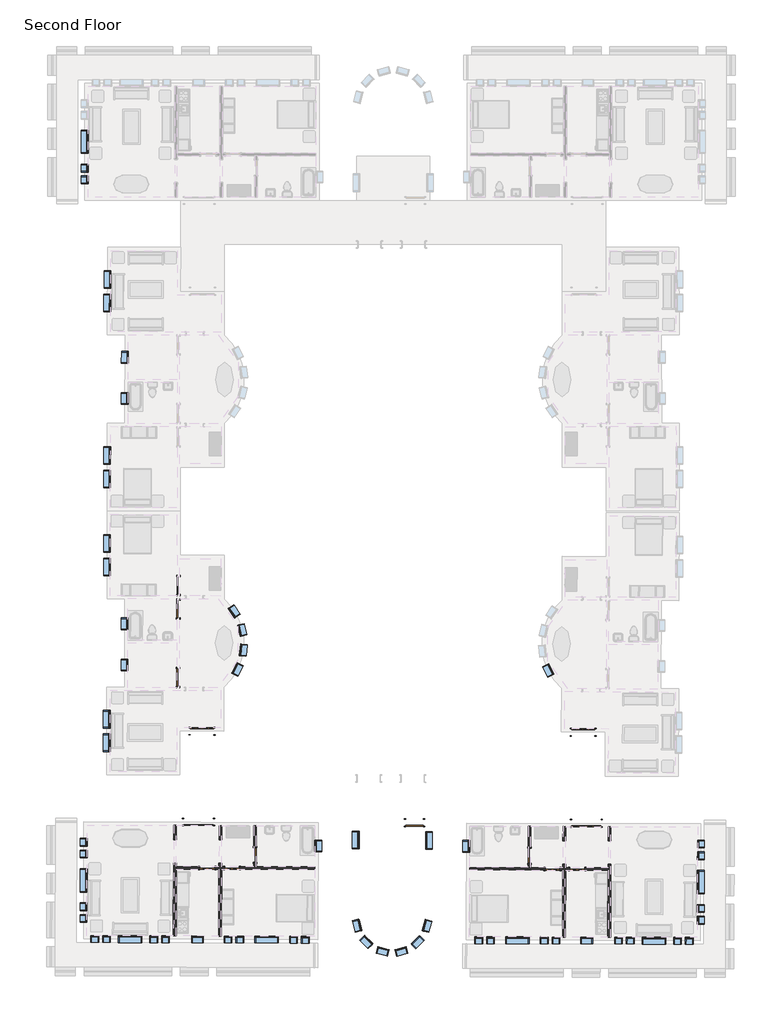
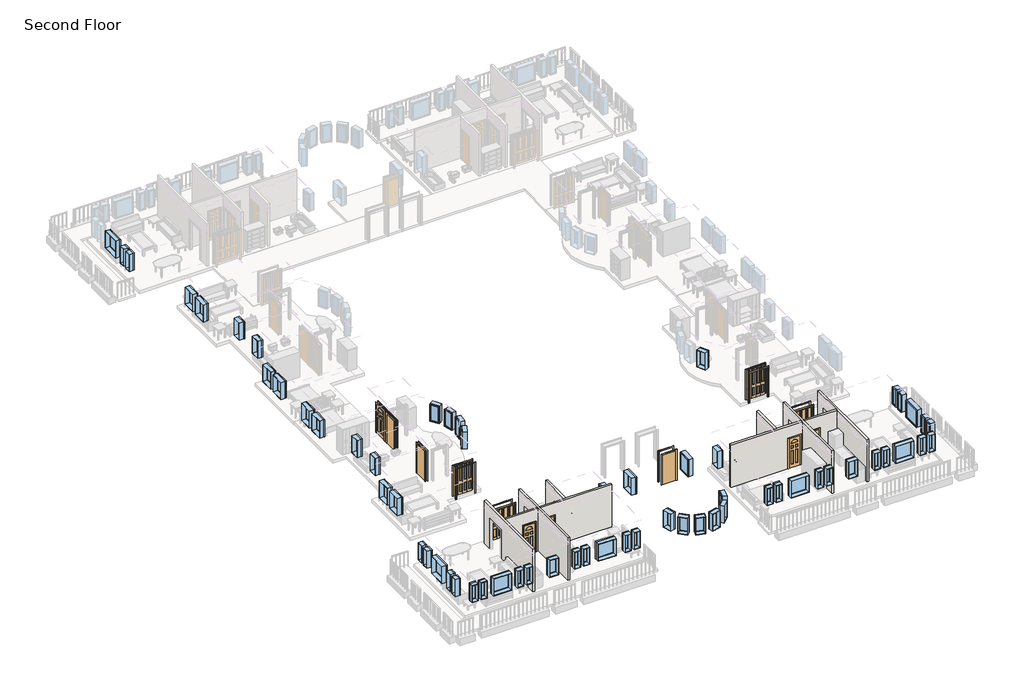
# One storey, part 1 of 8: 62 windows, 14 doors, 8 walls.
"""IFC4 building model written with IfcOpenShell, lengths in millimetres."""

from ifc_helpers import new_model, si_unit, frame, origin, place, context, project, spatial, polyline, outline, extrude, faceted_brep, transform, mapped, element, save
from components import m_bifold_4_panel_1220_x_2134mm_46e1cad3, m_bifold_4_panel_1220_x_2134mm_cde6dea2, m_bifold_4_panel_1525_x_2134mm_1ddae71f, m_bifold_4_panel_1525_x_2134mm_ac598c8b, m_single_decorative_2_0762_x_2134mm_0d0af7cb, m_single_decorative_2_0762_x_2134mm_2fe67c8e, m_single_decorative_2_0915_x_2134mm_0b11df3f, m_single_flush_0762_x_2134mm_0d89e411, m_single_flush_0762_x_2134mm_a28375c7, m_single_flush_0915_x_2134mm_ab9b6334, m_single_flush_0915_x_2134mm_08e0827a, m_single_flush_0915_x_2134mm_70678a7c, m_fixed_0406_x_1220mm_57fee329, m_fixed_0406_x_1220mm_85c28f40, m_fixed_0610_x_1220mm_2c28ef1d, m_fixed_0610_x_1220mm_1ea27827, m_fixed_0915_x_1220mm_bde29121, m_fixed_0915_x_1220mm_2a2509e7, m_fixed_1220_x_1220mm_e08ff7af, m_fixed_1220_x_1220mm_8f5f8ad3

model = new_model("IFC4")

# Units and contexts
model_context = context("Model", 3, world=origin())
ifc_project = project(units=[si_unit("LENGTHUNIT", "METRE", prefix="MILLI")], contexts=[model_context])

# Site, building, storey
site = spatial("IfcSite", under=ifc_project)
building = spatial("IfcBuilding", under=site)
storey = spatial("IfcBuildingStorey", under=building, Name="Second Floor", Elevation=3048.0)

# Doors
placement = place(None, origin())
m_bifold_4_panel_1220_x_2134mm_shape = m_bifold_4_panel_1220_x_2134mm_46e1cad3(model_context)
element("IfcDoor", 1, ObjectType="M_Bifold-4 Panel : 1220 x 2134mm", at=placement, inside=storey, context=model_context, shape_type="MappedRepresentation", body=[
    mapped(m_bifold_4_panel_1220_x_2134mm_shape, transform((-9084.0085376, -31158.0124606, 3048.0), x_axis=(0.9999905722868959, -0.0043422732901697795, 0.0), y_axis=(0.0043422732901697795, 0.9999905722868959, 0.0), z_axis=(0.0, 0.0, 1.0))),
])
m_bifold_4_panel_1220_x_2134mm_2_shape = m_bifold_4_panel_1220_x_2134mm_cde6dea2(model_context)
element("IfcDoor", 2, ObjectType="M_Bifold-4 Panel : 1220 x 2134mm", at=placement, inside=storey, context=model_context, shape_type="MappedRepresentation", body=[
    mapped(m_bifold_4_panel_1220_x_2134mm_2_shape, transform((-28896.4341492, -31100.6581424, 3048.0), x_axis=(-0.9999989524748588, 0.0014474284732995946, 0.0), y_axis=(-0.0014474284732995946, -0.9999989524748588, 0.0), z_axis=(0.0, 0.0, 1.0))),
])
m_bifold_4_panel_1525_x_2134mm_shape = m_bifold_4_panel_1525_x_2134mm_1ddae71f(model_context)
element("IfcDoor", 3, ObjectType="M_Bifold-4 Panel : 1525 x 2134mm", at=placement, inside=storey, context=model_context, shape_type="MappedRepresentation", body=[
    mapped(m_bifold_4_panel_1525_x_2134mm_shape, transform((-29084.8596063, -35825.933405, 3048.0), x_axis=(-0.9999958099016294, 0.0028948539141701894, 0.0), y_axis=(-0.0028948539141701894, -0.9999958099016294, 0.0), z_axis=(0.0, 0.0, 1.0))),
])
m_bifold_4_panel_1525_x_2134mm_2_shape = m_bifold_4_panel_1525_x_2134mm_ac598c8b(model_context)
element("IfcDoor", 4, ObjectType="M_Bifold-4 Panel : 1525 x 2134mm", at=placement, inside=storey, context=model_context, shape_type="MappedRepresentation", body=[
    mapped(m_bifold_4_panel_1525_x_2134mm_2_shape, transform((-8922.9440871, -35884.2994497, 3048.0), x_axis=(0.9999958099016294, -0.0028948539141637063, 0.0), y_axis=(0.0028948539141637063, 0.9999958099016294, 0.0), z_axis=(0.0, 0.0, 1.0))),
])
m_single_decorative_2_0762_x_2134mm_shape = m_single_decorative_2_0762_x_2134mm_0d0af7cb(model_context)
element("IfcDoor", 5, ObjectType="M_Single-Decorative 2 : 0762 x 2134mm", at=placement, inside=storey, context=model_context, shape_type="MappedRepresentation", body=[
    mapped(m_single_decorative_2_0762_x_2134mm_shape, transform((-10682.8170859, -38255.9648119, 3048.0), x_axis=(0.9999958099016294, -0.002894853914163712, 0.0), y_axis=(0.002894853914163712, 0.9999958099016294, 0.0), z_axis=(0.0, 0.0, 1.0))),
])
element("IfcDoor", 6, ObjectType="M_Single-Decorative 2 : 0762 x 2134mm", at=placement, inside=storey, context=model_context, shape_type="MappedRepresentation", body=[
    mapped(m_single_decorative_2_0762_x_2134mm_shape, transform((-28625.491904, -38204.0231719, 3048.0), x_axis=(0.9999958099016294, -0.0028948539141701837, 0.0), y_axis=(0.0028948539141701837, 0.9999958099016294, 0.0), z_axis=(0.0, 0.0, 1.0))),
])
m_single_decorative_2_0762_x_2134mm_2_shape = m_single_decorative_2_0762_x_2134mm_2fe67c8e(model_context)
element("IfcDoor", 7, ObjectType="M_Single-Decorative 2 : 0762 x 2134mm", at=placement, inside=storey, context=model_context, shape_type="MappedRepresentation", body=[
    mapped(m_single_decorative_2_0762_x_2134mm_2_shape, transform((-9396.0724775, -38259.6897652, 3048.0), x_axis=(-0.9999958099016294, 0.002894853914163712, 0.0), y_axis=(-0.002894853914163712, -0.9999958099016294, 0.0), z_axis=(0.0, 0.0, 1.0))),
])
element("IfcDoor", 8, ObjectType="M_Single-Decorative 2 : 0762 x 2134mm", at=placement, inside=storey, context=model_context, shape_type="MappedRepresentation", body=[
    mapped(m_single_decorative_2_0762_x_2134mm_2_shape, transform((-27338.7472956, -38207.7481251, 3048.0), x_axis=(-0.9999958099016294, 0.0028948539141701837, 0.0), y_axis=(-0.0028948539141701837, -0.9999958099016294, 0.0), z_axis=(0.0, 0.0, 1.0))),
])
m_single_decorative_2_0915_x_2134mm_shape = m_single_decorative_2_0915_x_2134mm_0b11df3f(model_context)
element("IfcDoor", 9, ObjectType="M_Single-Decorative 2 : 0915 x 2134mm", at=placement, inside=storey, context=model_context, shape_type="MappedRepresentation", body=[
    mapped(m_single_decorative_2_0915_x_2134mm_shape, transform((-30128.4841363, -23534.6169126, 3048.0), x_axis=(-0.0014474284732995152, -0.9999989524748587, 0.0), y_axis=(0.9999989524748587, -0.0014474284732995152, 0.0), z_axis=(0.0, 0.0, 1.0))),
])
m_single_flush_0762_x_2134mm_shape = m_single_flush_0762_x_2134mm_0d89e411(model_context)
element("IfcDoor", 10, ObjectType="M_Single-Flush : 0762 x 2134mm", at=placement, inside=storey, context=model_context, shape_type="MappedRepresentation", body=[
    mapped(m_single_flush_0762_x_2134mm_shape, transform((-26146.2902967, -37533.4472886, 3048.0), x_axis=(-0.0028948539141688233, -0.9999958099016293, 0.0), y_axis=(0.9999958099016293, -0.0028948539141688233, 0.0), z_axis=(0.0, 0.0, 1.0))),
])
m_single_flush_0762_x_2134mm_2_shape = m_single_flush_0762_x_2134mm_a28375c7(model_context)
element("IfcDoor", 11, ObjectType="M_Single-Flush : 0762 x 2134mm", at=placement, inside=storey, context=model_context, shape_type="MappedRepresentation", body=[
    mapped(m_single_flush_0762_x_2134mm_2_shape, transform((-11871.3501103, -37574.7713282, 3048.0), x_axis=(-0.002894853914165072, -0.9999958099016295, 0.0), y_axis=(0.9999958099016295, -0.002894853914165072, 0.0), z_axis=(0.0, 0.0, 1.0))),
])
m_single_flush_0915_x_2134mm_shape = m_single_flush_0915_x_2134mm_ab9b6334(model_context)
element("IfcDoor", 12, ObjectType="M_Single-Flush : 0915 x 2134mm", at=placement, inside=storey, context=model_context, shape_type="MappedRepresentation", body=[
    mapped(m_single_flush_0915_x_2134mm_shape, transform((-30135.3858371, -28302.8619177, 3048.0), x_axis=(-0.0014474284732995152, -0.9999989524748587, 0.0), y_axis=(0.9999989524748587, -0.0014474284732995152, 0.0), z_axis=(0.0, 0.0, 1.0))),
])
m_single_flush_0915_x_2134mm_2_shape = m_single_flush_0915_x_2134mm_08e0827a(model_context)
element("IfcDoor", 13, ObjectType="M_Single-Flush : 0915 x 2134mm", at=placement, inside=storey, context=model_context, shape_type="MappedRepresentation", body=[
    mapped(m_single_flush_0915_x_2134mm_2_shape, transform((-30130.249999, -24754.6156346, 3048.0), x_axis=(0.0014474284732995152, 0.9999989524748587, 0.0), y_axis=(-0.9999989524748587, 0.0014474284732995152, 0.0), z_axis=(0.0, 0.0, 1.0))),
])
m_single_flush_0915_x_2134mm_3_shape = m_single_flush_0915_x_2134mm_70678a7c(model_context)
element("IfcDoor", 14, ObjectType="M_Single-Flush : 0915 x 2134mm", at=placement, inside=storey, context=model_context, shape_type="MappedRepresentation", body=[
    mapped(m_single_flush_0915_x_2134mm_3_shape, transform((-17860.906636, -35858.4252454, 3048.0), x_axis=(0.9999958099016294, -0.0028948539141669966, 0.0), y_axis=(0.0028948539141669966, 0.9999958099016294, 0.0), z_axis=(0.0, 0.0, 1.0))),
])

# Walls
element("IfcWall", 15, ObjectType="Interior - 135mm Partition (2-hr)", at=placement, inside=storey, context=model_context, shape_type="Brep", body=[
    faceted_brep([(-7661.5898742, -41808.9757108, 3048.0), (-7650.6270624, -38021.9915787, 3048.0), (-7650.6270624, -38021.9915787, 5182.0), (-7647.0953406, -36801.9966906, 5182.0), (-7647.0953406, -36801.9966906, 3048.0), (-7644.9560436, -36062.9997871, 3048.0), (-7644.9560436, -36062.9997871, 6096.0), (-7661.5898742, -41808.9757108, 6096.0), (-7786.1264946, -38021.599326, 5182.0), (-7786.1264946, -38021.599326, 3048.0), (-7786.6330941, -38196.5985928, 3048.0), (-7787.0253468, -38332.098025, 3048.0), (-7797.0893064, -41808.5834581, 3048.0), (-7797.0893064, -41808.5834581, 6096.0), (-7787.0253468, -38332.098025, 6096.0), (-7786.6330941, -38196.5985928, 6096.0), (-7780.4554758, -36062.6075344, 6096.0), (-7780.4554758, -36062.6075344, 3048.0), (-7782.5947729, -36801.6044379, 3048.0), (-7782.5947729, -36801.6044379, 5182.0)], [[[0, 1, 2, 3, 4, 5, 6, 7]], [[8, 9, 10, 11, 12, 13, 14, 15, 16, 17, 18, 19]], [[18, 17, 5, 4]], [[12, 11, 10, 9, 1, 0]], [[7, 6, 16, 15, 14, 13]], [[4, 3, 19, 18]], [[2, 1, 9, 8]], [[3, 2, 8, 19]], [[6, 5, 17, 16]], [[0, 7, 13, 12]]]),
])
element("IfcWall", 16, ObjectType="Interior - 135mm Partition (2-hr)", at=placement, inside=storey, context=model_context, shape_type="Brep", body=[
    faceted_brep([(-10000.8354782, -36795.1829282, 5182.0), (-10000.8354782, -36795.1829282, 3048.0), (-9998.6961811, -36056.1860247, 3048.0), (-9998.6961811, -36056.1860247, 6096.0), (-10004.8737994, -38190.1770831, 6096.0), (-10005.2660521, -38325.6765153, 6096.0), (-10015.3300117, -41802.1619484, 6096.0), (-10015.3300117, -41802.1619484, 3048.0), (-10005.2660521, -38325.6765153, 3048.0), (-10004.8737994, -38190.1770831, 3048.0), (-10004.3671999, -38015.1778163, 3048.0), (-10004.3671999, -38015.1778163, 5182.0), (-10134.1956134, -36055.793772, 3048.0), (-10136.3349104, -36794.7906755, 3048.0), (-10136.3349104, -36794.7906755, 5182.0), (-10139.8666322, -38014.7855636, 5182.0), (-10139.8666322, -38014.7855636, 3048.0), (-10140.3732316, -38189.7848304, 3048.0), (-10140.7654843, -38325.2842626, 3048.0), (-10150.829444, -41801.7696957, 3048.0), (-10150.829444, -41801.7696957, 6096.0), (-10140.7654843, -38325.2842626, 6096.0), (-10140.3732316, -38189.7848304, 6096.0), (-10134.1956134, -36055.793772, 6096.0)], [[[0, 1, 2, 3, 4, 5, 6, 7, 8, 9, 10, 11]], [[12, 13, 14, 15, 16, 17, 18, 19, 20, 21, 22, 23]], [[2, 1, 13, 12]], [[10, 9, 8, 7, 19, 18, 17, 16]], [[6, 5, 4, 3, 23, 22, 21, 20]], [[16, 15, 11, 10]], [[14, 13, 1, 0]], [[15, 14, 0, 11]], [[3, 2, 12, 23]], [[7, 6, 20, 19]]]),
])
element("IfcWall", 17, ObjectType="Interior - 135mm Partition (2-hr)", at=placement, inside=storey, context=model_context, shape_type="Brep", body=[
    faceted_brep([(-9777.2670074, -38326.336542, 3048.0), (-9777.2670074, -38326.336542, 5182.0), (-9015.2702003, -38328.5424207, 5182.0), (-9015.2702003, -38328.5424207, 3048.0), (-7787.0253468, -38332.098025, 3048.0), (-7787.0253468, -38332.098025, 6096.0), (-10005.2660521, -38325.6765153, 6096.0), (-10005.2660521, -38325.6765153, 3048.0), (-9776.8747547, -38190.8371097, 5182.0), (-9776.8747547, -38190.8371097, 3048.0), (-10004.8737994, -38190.1770831, 3048.0), (-10004.8737994, -38190.1770831, 6096.0), (-7786.6330941, -38196.5985928, 6096.0), (-7786.6330941, -38196.5985928, 3048.0), (-9014.8779476, -38193.0429884, 3048.0), (-9014.8779476, -38193.0429884, 5182.0)], [[[0, 1, 2, 3, 4, 5, 6, 7]], [[8, 9, 10, 11, 12, 13, 14, 15]], [[9, 0, 7, 10]], [[3, 14, 13, 4]], [[5, 12, 11, 6]], [[1, 0, 9, 8]], [[2, 1, 8, 15]], [[3, 2, 15, 14]], [[5, 4, 13, 12]], [[7, 6, 11, 10]]]),
    faceted_brep([(-10302.0148087, -38324.8174674, 5182.0), (-10302.0148087, -38324.8174674, 3048.0), (-10140.7654843, -38325.2842626, 3048.0), (-10140.7654843, -38325.2842626, 6096.0), (-14989.2451686, -38311.2485634, 6096.0), (-14989.2451686, -38311.2485634, 3048.0), (-11064.0116158, -38322.6115887, 3048.0), (-11064.0116158, -38322.6115887, 5182.0), (-10301.622556, -38189.3180352, 3048.0), (-10301.622556, -38189.3180352, 5182.0), (-11063.6193631, -38187.1121565, 5182.0), (-11063.6193631, -38187.1121565, 3048.0), (-11805.3662551, -38184.9648986, 3048.0), (-11940.8656874, -38184.5726459, 3048.0), (-14988.8529159, -38175.7491311, 3048.0), (-14988.8529159, -38175.7491311, 6096.0), (-11940.8656874, -38184.5726459, 6096.0), (-11805.3662551, -38184.9648986, 6096.0), (-10140.3732316, -38189.7848304, 6096.0), (-10140.3732316, -38189.7848304, 3048.0)], [[[0, 1, 2, 3, 4, 5, 6, 7]], [[8, 9, 10, 11, 12, 13, 14, 15, 16, 17, 18, 19]], [[1, 8, 19, 2]], [[11, 6, 5, 14, 13, 12]], [[15, 4, 3, 18, 17, 16]], [[9, 8, 1, 0]], [[10, 9, 0, 7]], [[11, 10, 7, 6]], [[5, 4, 15, 14]], [[3, 2, 19, 18]]]),
])
element("IfcWall", 18, ObjectType="Interior - 135mm Partition (2-hr)", at=placement, inside=storey, context=model_context, shape_type="SweptSolid", body=[
    extrude(outline(polyline([(-2309.0, 0.0), (-2080.0, 0.0), (-2080.0, -2134.0), (-1318.0, -2134.0), (-1318.0, 0.0), (-175.0000001, 0.0), (-175.0000001, -3048.0), (-2309.0, -3048.0), (-2309.0, 0.0)])), frame((-11798.6820374, -35875.9745735, 3048.0), z_axis=(-0.9999958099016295, 0.002894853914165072, 0.0), x_axis=(0.002894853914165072, 0.9999958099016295, 0.0)), (0.0, 0.0, 1.0), 135.5),
])
element("IfcWall", 19, ObjectType="Interior - 135mm Partition (2-hr)", at=placement, inside=storey, context=model_context, shape_type="Brep", body=[
    faceted_brep([(-30244.9952471, -41743.5997775, 3048.0), (-30234.9312874, -38267.1143443, 3048.0), (-30234.5390347, -38131.6149121, 3048.0), (-30234.0324353, -37956.6156454, 3048.0), (-30234.0324353, -37956.6156454, 5182.0), (-30230.5007135, -36736.6207573, 5182.0), (-30230.5007135, -36736.6207573, 3048.0), (-30228.3614165, -35997.6238538, 3048.0), (-30228.3614165, -35997.6238538, 6096.0), (-30234.5390347, -38131.6149121, 6096.0), (-30234.9312874, -38267.1143443, 6096.0), (-30244.9952471, -41743.5997775, 6096.0), (-30369.5318675, -37956.2233926, 5182.0), (-30369.5318675, -37956.2233926, 3048.0), (-30380.4946793, -41743.2075247, 3048.0), (-30380.4946793, -41743.2075247, 6096.0), (-30363.8608487, -35997.2316011, 6096.0), (-30363.8608487, -35997.2316011, 3048.0), (-30366.0001458, -36736.2285046, 3048.0), (-30366.0001458, -36736.2285046, 5182.0)], [[[0, 1, 2, 3, 4, 5, 6, 7, 8, 9, 10, 11]], [[12, 13, 14, 15, 16, 17, 18, 19]], [[18, 17, 7, 6]], [[14, 13, 3, 2, 1, 0]], [[11, 10, 9, 8, 16, 15]], [[6, 5, 19, 18]], [[4, 3, 13, 12]], [[5, 4, 12, 19]], [[0, 11, 15, 14]], [[8, 7, 17, 16]]]),
])
element("IfcWall", 20, ObjectType="Interior - 135mm Partition (2-hr)", at=placement, inside=storey, context=model_context, shape_type="Brep", body=[
    faceted_brep([(-27876.760576, -36743.4345197, 5182.0), (-27876.760576, -36743.4345197, 3048.0), (-27874.6212789, -36004.4376162, 3048.0), (-27874.6212789, -36004.4376162, 6096.0), (-27880.7988972, -38138.4286745, 6096.0), (-27881.1911499, -38273.9281067, 6096.0), (-27891.2551095, -41750.4135399, 6096.0), (-27891.2551095, -41750.4135399, 3048.0), (-27881.1911499, -38273.9281067, 3048.0), (-27880.7988972, -38138.4286745, 3048.0), (-27880.2922977, -37963.4294078, 3048.0), (-27880.2922977, -37963.4294078, 5182.0), (-28010.1207112, -36004.0453635, 3048.0), (-28012.2600082, -36743.042267, 3048.0), (-28012.2600082, -36743.042267, 5182.0), (-28015.79173, -37963.037155, 5182.0), (-28015.79173, -37963.037155, 3048.0), (-28016.2983294, -38138.0364218, 3048.0), (-28016.6905821, -38273.535854, 3048.0), (-28026.7545418, -41750.0212871, 3048.0), (-28026.7545418, -41750.0212871, 6096.0), (-28016.6905821, -38273.535854, 6096.0), (-28016.2983294, -38138.0364218, 6096.0), (-28010.1207112, -36004.0453635, 6096.0)], [[[0, 1, 2, 3, 4, 5, 6, 7, 8, 9, 10, 11]], [[12, 13, 14, 15, 16, 17, 18, 19, 20, 21, 22, 23]], [[2, 1, 13, 12]], [[10, 9, 8, 7, 19, 18, 17, 16]], [[6, 5, 4, 3, 23, 22, 21, 20]], [[16, 15, 11, 10]], [[14, 13, 1, 0]], [[15, 14, 0, 11]], [[7, 6, 20, 19]], [[3, 2, 12, 23]]]),
])
element("IfcWall", 21, ObjectType="Interior - 135mm Partition (2-hr)", at=placement, inside=storey, context=model_context, shape_type="Brep", body=[
    faceted_brep([(-30234.5390347, -38131.6149121, 3048.0), (-30234.5390347, -38131.6149121, 6096.0), (-28016.2983294, -38138.0364218, 6096.0), (-28016.2983294, -38138.0364218, 3048.0), (-28244.2973741, -38137.3763951, 3048.0), (-28244.2973741, -38137.3763951, 5182.0), (-29006.2941812, -38135.1705164, 5182.0), (-29006.2941812, -38135.1705164, 3048.0), (-30234.9312874, -38267.1143443, 6096.0), (-30234.9312874, -38267.1143443, 3048.0), (-29006.6864339, -38270.6699486, 3048.0), (-29006.6864339, -38270.6699486, 5182.0), (-28244.6896268, -38272.8758273, 5182.0), (-28244.6896268, -38272.8758273, 3048.0), (-28016.6905821, -38273.535854, 3048.0), (-28016.6905821, -38273.535854, 6096.0)], [[[0, 1, 2, 3, 4, 5, 6, 7]], [[8, 9, 10, 11, 12, 13, 14, 15]], [[9, 0, 7, 10]], [[13, 4, 3, 14]], [[1, 8, 15, 2]], [[1, 0, 9, 8]], [[3, 2, 15, 14]], [[5, 4, 13, 12]], [[6, 5, 12, 11]], [[7, 6, 11, 10]]]),
    faceted_brep([(-27719.5495728, -38138.8954697, 5182.0), (-27719.5495728, -38138.8954697, 3048.0), (-27880.7988972, -38138.4286745, 3048.0), (-27880.7988972, -38138.4286745, 6096.0), (-26215.8058737, -38143.2486063, 6096.0), (-26080.3064415, -38143.640859, 6096.0), (-23032.3192129, -38152.4643737, 6096.0), (-23032.3192129, -38152.4643737, 3048.0), (-26080.3064415, -38143.640859, 3048.0), (-26215.8058737, -38143.2486063, 3048.0), (-26957.5527657, -38141.1013484, 3048.0), (-26957.5527657, -38141.1013484, 5182.0), (-27719.9418255, -38274.3949019, 3048.0), (-27719.9418255, -38274.3949019, 5182.0), (-26957.9450184, -38276.6007806, 5182.0), (-26957.9450184, -38276.6007806, 3048.0), (-23032.7114656, -38287.9638059, 3048.0), (-23032.7114656, -38287.9638059, 6096.0), (-27881.1911499, -38273.9281067, 6096.0), (-27881.1911499, -38273.9281067, 3048.0)], [[[0, 1, 2, 3, 4, 5, 6, 7, 8, 9, 10, 11]], [[12, 13, 14, 15, 16, 17, 18, 19]], [[1, 12, 19, 2]], [[15, 10, 9, 8, 7, 16]], [[17, 6, 5, 4, 3, 18]], [[3, 2, 19, 18]], [[13, 12, 1, 0]], [[14, 13, 0, 11]], [[15, 14, 11, 10]], [[7, 6, 17, 16]]]),
])
element("IfcWall", 22, ObjectType="Interior - 135mm Partition (2-hr)", at=placement, inside=storey, context=model_context, shape_type="SweptSolid", body=[
    extrude(outline(polyline([(-2309.0, 0.0), (-2080.0, 0.0), (-2080.0, -2134.0), (-1317.9999999, -2134.0), (-1317.9999999, 0.0), (-175.0, 0.0), (-175.0, -3048.0), (-2309.0, -3048.0), (-2309.0, 0.0)])), frame((-26073.6222238, -35834.6505339, 3048.0), z_axis=(-0.9999958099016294, 0.0028948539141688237, 0.0), x_axis=(0.0028948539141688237, 0.9999958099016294, 0.0)), (0.0, 0.0, 1.0), 135.5),
])

# Windows
m_fixed_0406_x_1220mm_shape = m_fixed_0406_x_1220mm_57fee329(model_context)
element("IfcWindow", 23, ObjectType="M_Fixed : 0406 x 1220mm", at=placement, inside=storey, context=model_context, shape_type="MappedRepresentation", body=[
    mapped(m_fixed_0406_x_1220mm_shape, transform((-35008.8416203, -2447.8811614, 3048.0), x_axis=(0.0, -1.0, 0.0), y_axis=(1.0, 0.0, 0.0), z_axis=(0.0, 0.0, 1.0))),
])
element("IfcWindow", 24, ObjectType="M_Fixed : 0406 x 1220mm", at=placement, inside=storey, context=model_context, shape_type="MappedRepresentation", body=[
    mapped(m_fixed_0406_x_1220mm_shape, transform((-35008.8416203, -1837.8811614, 3048.0), x_axis=(0.0, -1.0, 0.0), y_axis=(1.0, 0.0, 0.0), z_axis=(0.0, 0.0, 1.0))),
])
element("IfcWindow", 25, ObjectType="M_Fixed : 0406 x 1220mm", at=placement, inside=storey, context=model_context, shape_type="MappedRepresentation", body=[
    mapped(m_fixed_0406_x_1220mm_shape, transform((-10500.8722121, -41988.7571565, 3048.0), x_axis=(0.9999958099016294, -0.002894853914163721, 0.0), y_axis=(0.002894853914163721, 0.9999958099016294, 0.0), z_axis=(0.0, 0.0, 1.0))),
])
element("IfcWindow", 26, ObjectType="M_Fixed : 0406 x 1220mm", at=placement, inside=storey, context=model_context, shape_type="MappedRepresentation", body=[
    mapped(m_fixed_0406_x_1220mm_shape, transform((-11110.8696561, -41986.9912956, 3048.0), x_axis=(0.9999958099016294, -0.002894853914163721, 0.0), y_axis=(0.002894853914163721, 0.9999958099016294, 0.0), z_axis=(0.0, 0.0, 1.0))),
])
element("IfcWindow", 27, ObjectType="M_Fixed : 0406 x 1220mm", at=placement, inside=storey, context=model_context, shape_type="MappedRepresentation", body=[
    mapped(m_fixed_0406_x_1220mm_shape, transform((-3572.1512442, -42008.8148756, 3048.0), x_axis=(0.9999958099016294, -0.002894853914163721, 0.0), y_axis=(0.002894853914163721, 0.9999958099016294, 0.0), z_axis=(0.0, 0.0, 1.0))),
])
element("IfcWindow", 28, ObjectType="M_Fixed : 0406 x 1220mm", at=placement, inside=storey, context=model_context, shape_type="MappedRepresentation", body=[
    mapped(m_fixed_0406_x_1220mm_shape, transform((-4182.1486882, -42007.0490147, 3048.0), x_axis=(0.9999958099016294, -0.002894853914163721, 0.0), y_axis=(0.002894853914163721, 0.9999958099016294, 0.0), z_axis=(0.0, 0.0, 1.0))),
])
element("IfcWindow", 29, ObjectType="M_Fixed : 0406 x 1220mm", at=placement, inside=storey, context=model_context, shape_type="MappedRepresentation", body=[
    mapped(m_fixed_0406_x_1220mm_shape, transform((-2955.3079143, -36968.5794278, 3048.0), x_axis=(0.0028948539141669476, 0.9999958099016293, 0.0), y_axis=(-0.9999958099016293, 0.0028948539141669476, 0.0), z_axis=(0.0, 0.0, 1.0))),
])
element("IfcWindow", 30, ObjectType="M_Fixed : 0406 x 1220mm", at=placement, inside=storey, context=model_context, shape_type="MappedRepresentation", body=[
    mapped(m_fixed_0406_x_1220mm_shape, transform((-2957.0737751, -37578.5768719, 3048.0), x_axis=(0.0028948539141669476, 0.9999958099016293, 0.0), y_axis=(-0.9999958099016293, 0.0028948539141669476, 0.0), z_axis=(0.0, 0.0, 1.0))),
])
element("IfcWindow", 31, ObjectType="M_Fixed : 0406 x 1220mm", at=placement, inside=storey, context=model_context, shape_type="MappedRepresentation", body=[
    mapped(m_fixed_0406_x_1220mm_shape, transform((-23528.3176256, -41951.0444472, 3048.0), x_axis=(0.9999958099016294, -0.0028948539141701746, 0.0), y_axis=(0.0028948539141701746, 0.9999958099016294, 0.0), z_axis=(0.0, 0.0, 1.0))),
])
element("IfcWindow", 32, ObjectType="M_Fixed : 0406 x 1220mm", at=placement, inside=storey, context=model_context, shape_type="MappedRepresentation", body=[
    mapped(m_fixed_0406_x_1220mm_shape, transform((-24138.3150696, -41949.2785863, 3048.0), x_axis=(0.9999958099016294, -0.0028948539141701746, 0.0), y_axis=(0.0028948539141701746, 0.9999958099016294, 0.0), z_axis=(0.0, 0.0, 1.0))),
])
element("IfcWindow", 33, ObjectType="M_Fixed : 0406 x 1220mm", at=placement, inside=storey, context=model_context, shape_type="MappedRepresentation", body=[
    mapped(m_fixed_0406_x_1220mm_shape, transform((-30795.2871761, -41930.0075438, 3048.0), x_axis=(0.9999958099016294, -0.0028948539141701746, 0.0), y_axis=(0.0028948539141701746, 0.9999958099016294, 0.0), z_axis=(0.0, 0.0, 1.0))),
])
element("IfcWindow", 34, ObjectType="M_Fixed : 0406 x 1220mm", at=placement, inside=storey, context=model_context, shape_type="MappedRepresentation", body=[
    mapped(m_fixed_0406_x_1220mm_shape, transform((-31405.2846201, -41928.2416829, 3048.0), x_axis=(0.9999958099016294, -0.0028948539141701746, 0.0), y_axis=(0.0028948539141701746, 0.9999958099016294, 0.0), z_axis=(0.0, 0.0, 1.0))),
])
element("IfcWindow", 35, ObjectType="M_Fixed : 0406 x 1220mm", at=placement, inside=storey, context=model_context, shape_type="MappedRepresentation", body=[
    mapped(m_fixed_0406_x_1220mm_shape, transform((-35070.1428086, -40837.627884, 3048.0), x_axis=(-0.002894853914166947, -0.9999958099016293, 0.0), y_axis=(0.9999958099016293, -0.002894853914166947, 0.0), z_axis=(0.0, 0.0, 1.0))),
])
element("IfcWindow", 36, ObjectType="M_Fixed : 0406 x 1220mm", at=placement, inside=storey, context=model_context, shape_type="MappedRepresentation", body=[
    mapped(m_fixed_0406_x_1220mm_shape, transform((-35068.3769478, -40227.63044, 3048.0), x_axis=(-0.002894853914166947, -0.9999958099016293, 0.0), y_axis=(0.9999958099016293, -0.002894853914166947, 0.0), z_axis=(0.0, 0.0, 1.0))),
])
m_fixed_0406_x_1220mm_2_shape = m_fixed_0406_x_1220mm_85c28f40(model_context)
element("IfcWindow", 37, ObjectType="M_Fixed : 0406 x 1220mm", at=placement, inside=storey, context=model_context, shape_type="MappedRepresentation", body=[
    mapped(m_fixed_0406_x_1220mm_2_shape, transform((-14514.855393, -41977.1372129, 3048.0), x_axis=(-0.9999958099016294, 0.002894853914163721, 0.0), y_axis=(-0.002894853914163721, -0.9999958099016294, 0.0), z_axis=(0.0, 0.0, 1.0))),
])
element("IfcWindow", 38, ObjectType="M_Fixed : 0406 x 1220mm", at=placement, inside=storey, context=model_context, shape_type="MappedRepresentation", body=[
    mapped(m_fixed_0406_x_1220mm_2_shape, transform((-13904.857949, -41978.9030738, 3048.0), x_axis=(-0.9999958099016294, 0.002894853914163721, 0.0), y_axis=(-0.002894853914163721, -0.9999958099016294, 0.0), z_axis=(0.0, 0.0, 1.0))),
])
element("IfcWindow", 39, ObjectType="M_Fixed : 0406 x 1220mm", at=placement, inside=storey, context=model_context, shape_type="MappedRepresentation", body=[
    mapped(m_fixed_0406_x_1220mm_2_shape, transform((-7247.8858424, -41998.1741163, 3048.0), x_axis=(-0.9999958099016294, 0.002894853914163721, 0.0), y_axis=(-0.002894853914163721, -0.9999958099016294, 0.0), z_axis=(0.0, 0.0, 1.0))),
])
element("IfcWindow", 40, ObjectType="M_Fixed : 0406 x 1220mm", at=placement, inside=storey, context=model_context, shape_type="MappedRepresentation", body=[
    mapped(m_fixed_0406_x_1220mm_2_shape, transform((-6637.8883984, -41999.9399772, 3048.0), x_axis=(-0.9999958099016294, 0.002894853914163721, 0.0), y_axis=(-0.002894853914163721, -0.9999958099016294, 0.0), z_axis=(0.0, 0.0, 1.0))),
])
element("IfcWindow", 41, ObjectType="M_Fixed : 0406 x 1220mm", at=placement, inside=storey, context=model_context, shape_type="MappedRepresentation", body=[
    mapped(m_fixed_0406_x_1220mm_2_shape, transform((-2966.7773255, -40930.5628267, 3048.0), x_axis=(-0.0028948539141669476, -0.9999958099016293, 0.0), y_axis=(0.9999958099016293, -0.0028948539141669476, 0.0), z_axis=(0.0, 0.0, 1.0))),
])
element("IfcWindow", 42, ObjectType="M_Fixed : 0406 x 1220mm", at=placement, inside=storey, context=model_context, shape_type="MappedRepresentation", body=[
    mapped(m_fixed_0406_x_1220mm_2_shape, transform((-2965.0114646, -40320.5653826, 3048.0), x_axis=(-0.0028948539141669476, -0.9999958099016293, 0.0), y_axis=(0.9999958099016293, -0.0028948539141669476, 0.0), z_axis=(0.0, 0.0, 1.0))),
])
element("IfcWindow", 43, ObjectType="M_Fixed : 0406 x 1220mm", at=placement, inside=storey, context=model_context, shape_type="MappedRepresentation", body=[
    mapped(m_fixed_0406_x_1220mm_2_shape, transform((-27542.3008065, -41939.4245036, 3048.0), x_axis=(-0.9999958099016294, 0.0028948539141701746, 0.0), y_axis=(-0.0028948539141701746, -0.9999958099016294, 0.0), z_axis=(0.0, 0.0, 1.0))),
])
element("IfcWindow", 44, ObjectType="M_Fixed : 0406 x 1220mm", at=placement, inside=storey, context=model_context, shape_type="MappedRepresentation", body=[
    mapped(m_fixed_0406_x_1220mm_2_shape, transform((-26932.3033625, -41941.1903644, 3048.0), x_axis=(-0.9999958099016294, 0.0028948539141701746, 0.0), y_axis=(-0.0028948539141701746, -0.9999958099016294, 0.0), z_axis=(0.0, 0.0, 1.0))),
])
element("IfcWindow", 45, ObjectType="M_Fixed : 0406 x 1220mm", at=placement, inside=storey, context=model_context, shape_type="MappedRepresentation", body=[
    mapped(m_fixed_0406_x_1220mm_2_shape, transform((-34471.0217744, -41919.3667845, 3048.0), x_axis=(-0.9999958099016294, 0.0028948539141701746, 0.0), y_axis=(-0.0028948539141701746, -0.9999958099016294, 0.0), z_axis=(0.0, 0.0, 1.0))),
])
element("IfcWindow", 46, ObjectType="M_Fixed : 0406 x 1220mm", at=placement, inside=storey, context=model_context, shape_type="MappedRepresentation", body=[
    mapped(m_fixed_0406_x_1220mm_2_shape, transform((-33861.0243303, -41921.1326454, 3048.0), x_axis=(-0.9999958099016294, 0.0028948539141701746, 0.0), y_axis=(-0.0028948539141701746, -0.9999958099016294, 0.0), z_axis=(0.0, 0.0, 1.0))),
])
element("IfcWindow", 47, ObjectType="M_Fixed : 0406 x 1220mm", at=placement, inside=storey, context=model_context, shape_type="MappedRepresentation", body=[
    mapped(m_fixed_0406_x_1220mm_2_shape, transform((-35058.6733974, -36875.6444852, 3048.0), x_axis=(0.002894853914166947, 0.9999958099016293, 0.0), y_axis=(-0.9999958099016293, 0.002894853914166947, 0.0), z_axis=(0.0, 0.0, 1.0))),
])
element("IfcWindow", 48, ObjectType="M_Fixed : 0406 x 1220mm", at=placement, inside=storey, context=model_context, shape_type="MappedRepresentation", body=[
    mapped(m_fixed_0406_x_1220mm_2_shape, transform((-35060.4392583, -37485.6419292, 3048.0), x_axis=(0.002894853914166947, 0.9999958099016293, 0.0), y_axis=(-0.9999958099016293, 0.002894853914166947, 0.0), z_axis=(0.0, 0.0, 1.0))),
])
m_fixed_0610_x_1220mm_shape = m_fixed_0610_x_1220mm_2c28ef1d(model_context)
element("IfcWindow", 49, ObjectType="M_Fixed : 0610 x 1220mm", at=placement, inside=storey, context=model_context, shape_type="MappedRepresentation", body=[
    mapped(m_fixed_0610_x_1220mm_shape, transform((-32923.0053866, -13805.8618518, 3048.0), x_axis=(-0.0014474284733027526, -0.9999989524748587, 0.0), y_axis=(0.9999989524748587, -0.0014474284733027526, 0.0), z_axis=(0.0, 0.0, 1.0))),
])
element("IfcWindow", 50, ObjectType="M_Fixed : 0610 x 1220mm", at=placement, inside=storey, context=model_context, shape_type="MappedRepresentation", body=[
    mapped(m_fixed_0610_x_1220mm_shape, transform((-32919.9171532, -11672.2640868, 3048.0), x_axis=(-0.0014474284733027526, -0.9999989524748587, 0.0), y_axis=(0.9999989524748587, -0.0014474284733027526, 0.0), z_axis=(0.0, 0.0, 1.0))),
])
element("IfcWindow", 51, ObjectType="M_Fixed : 0610 x 1220mm", at=placement, inside=storey, context=model_context, shape_type="MappedRepresentation", body=[
    mapped(m_fixed_0610_x_1220mm_shape, transform((-17192.9734341, -41226.7827416, 3048.0), x_axis=(0.2616141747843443, 0.9651725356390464, 0.0), y_axis=(-0.9651725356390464, 0.2616141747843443, 0.0), z_axis=(0.0, 0.0, 1.0))),
])
element("IfcWindow", 52, ObjectType="M_Fixed : 0610 x 1220mm", at=placement, inside=storey, context=model_context, shape_type="MappedRepresentation", body=[
    mapped(m_fixed_0610_x_1220mm_shape, transform((-18533.9080335, -42559.9760987, 3048.0), x_axis=(0.9666710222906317, 0.2560217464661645, 0.0), y_axis=(-0.2560217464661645, 0.9666710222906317, 0.0), z_axis=(0.0, 0.0, 1.0))),
])
element("IfcWindow", 53, ObjectType="M_Fixed : 0610 x 1220mm", at=placement, inside=storey, context=model_context, shape_type="MappedRepresentation", body=[
    mapped(m_fixed_0610_x_1220mm_shape, transform((-17684.8266921, -42073.0305917, 3048.0), x_axis=(0.709150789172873, 0.7050568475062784, 0.0), y_axis=(-0.7050568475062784, 0.709150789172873, 0.0), z_axis=(0.0, 0.0, 1.0))),
])
element("IfcWindow", 54, ObjectType="M_Fixed : 0610 x 1220mm", at=placement, inside=storey, context=model_context, shape_type="MappedRepresentation", body=[
    mapped(m_fixed_0610_x_1220mm_shape, transform((-29136.4441269, -41934.8096722, 3048.0), x_axis=(0.9999958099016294, -0.0028948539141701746, 0.0), y_axis=(0.0028948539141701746, 0.9999958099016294, 0.0), z_axis=(0.0, 0.0, 1.0))),
])
element("IfcWindow", 55, ObjectType="M_Fixed : 0610 x 1220mm", at=placement, inside=storey, context=model_context, shape_type="MappedRepresentation", body=[
    mapped(m_fixed_0610_x_1220mm_shape, transform((-22841.1675047, -37064.0131692, 3048.0), x_axis=(0.0028948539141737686, 0.9999958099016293, 0.0), y_axis=(-0.9999958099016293, 0.0028948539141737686, 0.0), z_axis=(0.0, 0.0, 1.0))),
])
element("IfcWindow", 56, ObjectType="M_Fixed : 0610 x 1220mm", at=placement, inside=storey, context=model_context, shape_type="MappedRepresentation", body=[
    mapped(m_fixed_0610_x_1220mm_shape, transform((-27047.2502691, -27908.2496385, 3048.0), x_axis=(0.4532525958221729, 0.8913821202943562, 0.0), y_axis=(-0.8913821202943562, 0.4532525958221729, 0.0), z_axis=(0.0, 0.0, 1.0))),
])
element("IfcWindow", 57, ObjectType="M_Fixed : 0610 x 1220mm", at=placement, inside=storey, context=model_context, shape_type="MappedRepresentation", body=[
    mapped(m_fixed_0610_x_1220mm_shape, transform((-26738.7440135, -26896.1747529, 3048.0), x_axis=(0.12104747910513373, 0.9926467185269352, 0.0), y_axis=(-0.9926467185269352, 0.12104747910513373, 0.0), z_axis=(0.0, 0.0, 1.0))),
])
m_fixed_0610_x_1220mm_2_shape = m_fixed_0610_x_1220mm_1ea27827(model_context)
element("IfcWindow", 58, ObjectType="M_Fixed : 0610 x 1220mm", at=placement, inside=storey, context=model_context, shape_type="MappedRepresentation", body=[
    mapped(m_fixed_0610_x_1220mm_2_shape, transform((-8906.7288917, -41993.3719879, 3048.0), x_axis=(-0.9999958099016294, 0.002894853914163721, 0.0), y_axis=(-0.002894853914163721, -0.9999958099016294, 0.0), z_axis=(0.0, 0.0, 1.0))),
])
element("IfcWindow", 59, ObjectType="M_Fixed : 0610 x 1220mm", at=placement, inside=storey, context=model_context, shape_type="MappedRepresentation", body=[
    mapped(m_fixed_0610_x_1220mm_2_shape, transform((-15173.6996323, -37086.2094616, 3048.0), x_axis=(0.0028948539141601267, 0.9999958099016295, 0.0), y_axis=(-0.9999958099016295, 0.0028948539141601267, 0.0), z_axis=(0.0, 0.0, 1.0))),
])
element("IfcWindow", 60, ObjectType="M_Fixed : 0610 x 1220mm", at=placement, inside=storey, context=model_context, shape_type="MappedRepresentation", body=[
    mapped(m_fixed_0610_x_1220mm_2_shape, transform((-20845.9001557, -41216.208008, 3048.0), x_axis=(-0.25602174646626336, 0.9666710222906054, 0.0), y_axis=(-0.9666710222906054, -0.25602174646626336, 0.0), z_axis=(0.0, 0.0, 1.0))),
])
element("IfcWindow", 61, ObjectType="M_Fixed : 0610 x 1220mm", at=placement, inside=storey, context=model_context, shape_type="MappedRepresentation", body=[
    mapped(m_fixed_0610_x_1220mm_2_shape, transform((-19512.7067986, -42557.1426074, 3048.0), x_axis=(-0.9651725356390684, 0.26161417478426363, 0.0), y_axis=(-0.26161417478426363, -0.9651725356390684, 0.0), z_axis=(0.0, 0.0, 1.0))),
])
element("IfcWindow", 62, ObjectType="M_Fixed : 0610 x 1220mm", at=placement, inside=storey, context=model_context, shape_type="MappedRepresentation", body=[
    mapped(m_fixed_0610_x_1220mm_2_shape, transform((-20358.9546487, -42065.2893494, 3048.0), x_axis=(-0.7050568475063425, 0.7091507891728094, 0.0), y_axis=(-0.7091507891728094, -0.7050568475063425, 0.0), z_axis=(0.0, 0.0, 1.0))),
])
element("IfcWindow", 63, ObjectType="M_Fixed : 0610 x 1220mm", at=placement, inside=storey, context=model_context, shape_type="MappedRepresentation", body=[
    mapped(m_fixed_0610_x_1220mm_2_shape, transform((-10913.0946738, -27954.1574868, 3048.0), x_axis=(-0.448084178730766, 0.8939913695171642, 0.0), y_axis=(-0.8939913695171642, -0.448084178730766, 0.0), z_axis=(0.0, 0.0, 1.0))),
])
element("IfcWindow", 64, ObjectType="M_Fixed : 0610 x 1220mm", at=placement, inside=storey, context=model_context, shape_type="MappedRepresentation", body=[
    mapped(m_fixed_0610_x_1220mm_2_shape, transform((-32939.9662087, -25523.749577, 3048.0), x_axis=(0.0014474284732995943, 0.9999989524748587, 0.0), y_axis=(-0.9999989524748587, 0.0014474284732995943, 0.0), z_axis=(0.0, 0.0, 1.0))),
])
element("IfcWindow", 65, ObjectType="M_Fixed : 0610 x 1220mm", at=placement, inside=storey, context=model_context, shape_type="MappedRepresentation", body=[
    mapped(m_fixed_0610_x_1220mm_2_shape, transform((-32943.0544421, -27657.347342, 3048.0), x_axis=(0.0014474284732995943, 0.9999989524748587, 0.0), y_axis=(-0.9999989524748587, 0.0014474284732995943, 0.0), z_axis=(0.0, 0.0, 1.0))),
])
element("IfcWindow", 66, ObjectType="M_Fixed : 0610 x 1220mm", at=placement, inside=storey, context=model_context, shape_type="MappedRepresentation", body=[
    mapped(m_fixed_0610_x_1220mm_2_shape, transform((-27209.2126527, -24866.0217566, 3048.0), x_axis=(0.5453332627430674, -0.8382193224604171, 0.0), y_axis=(0.8382193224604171, 0.5453332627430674, 0.0), z_axis=(0.0, 0.0, 1.0))),
])
element("IfcWindow", 67, ObjectType="M_Fixed : 0610 x 1220mm", at=placement, inside=storey, context=model_context, shape_type="MappedRepresentation", body=[
    mapped(m_fixed_0610_x_1220mm_2_shape, transform((-26794.992959, -25839.6200974, 3048.0), x_axis=(0.225757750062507, -0.974183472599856, 0.0), y_axis=(0.974183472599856, 0.225757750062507, 0.0), z_axis=(0.0, 0.0, 1.0))),
])
m_fixed_0915_x_1220mm_shape = m_fixed_0915_x_1220mm_bde29121(model_context)
element("IfcWindow", 68, ObjectType="M_Fixed : 0915 x 1220mm", at=placement, inside=storey, context=model_context, shape_type="MappedRepresentation", body=[
    mapped(m_fixed_0915_x_1220mm_shape, transform((-33843.4583707, -17987.0839419, 3048.0), x_axis=(-0.0014474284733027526, -0.9999989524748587, 0.0), y_axis=(0.9999989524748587, -0.0014474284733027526, 0.0), z_axis=(0.0, 0.0, 1.0))),
])
element("IfcWindow", 69, ObjectType="M_Fixed : 0915 x 1220mm", at=placement, inside=storey, context=model_context, shape_type="MappedRepresentation", body=[
    mapped(m_fixed_0915_x_1220mm_shape, transform((-33841.6936659, -16767.885219, 3048.0), x_axis=(-0.0014474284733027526, -0.9999989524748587, 0.0), y_axis=(0.9999989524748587, -0.0014474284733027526, 0.0), z_axis=(0.0, 0.0, 1.0))),
])
element("IfcWindow", 70, ObjectType="M_Fixed : 0915 x 1220mm", at=placement, inside=storey, context=model_context, shape_type="MappedRepresentation", body=[
    mapped(m_fixed_0915_x_1220mm_shape, transform((-33830.2230847, -8843.0935205, 3048.0), x_axis=(-0.0014474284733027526, -0.9999989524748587, 0.0), y_axis=(0.9999989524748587, -0.0014474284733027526, 0.0), z_axis=(0.0, 0.0, 1.0))),
])
element("IfcWindow", 71, ObjectType="M_Fixed : 0915 x 1220mm", at=placement, inside=storey, context=model_context, shape_type="MappedRepresentation", body=[
    mapped(m_fixed_0915_x_1220mm_shape, transform((-33828.4583799, -7623.8947976, 3048.0), x_axis=(-0.0014474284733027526, -0.9999989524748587, 0.0), y_axis=(0.9999989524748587, -0.0014474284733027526, 0.0), z_axis=(0.0, 0.0, 1.0))),
])
m_fixed_0915_x_1220mm_2_shape = m_fixed_0915_x_1220mm_2a2509e7(model_context)
element("IfcWindow", 72, ObjectType="M_Fixed : 0915 x 1220mm", at=placement, inside=storey, context=model_context, shape_type="MappedRepresentation", body=[
    mapped(m_fixed_0915_x_1220mm_2_shape, transform((-20924.5426014, -36764.5602636, 3048.0), x_axis=(0.002894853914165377, 0.9999958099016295, 0.0), y_axis=(-0.9999958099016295, 0.002894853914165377, 0.0), z_axis=(0.0, 0.0, 1.0))),
])
element("IfcWindow", 73, ObjectType="M_Fixed : 0915 x 1220mm", at=placement, inside=storey, context=model_context, shape_type="MappedRepresentation", body=[
    mapped(m_fixed_0915_x_1220mm_2_shape, transform((-17088.5586747, -36775.6649232, 3048.0), x_axis=(-0.0028948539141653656, -0.9999958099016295, 0.0), y_axis=(0.9999958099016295, -0.0028948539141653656, 0.0), z_axis=(0.0, 0.0, 1.0))),
])
element("IfcWindow", 74, ObjectType="M_Fixed : 0915 x 1220mm", at=placement, inside=storey, context=model_context, shape_type="MappedRepresentation", body=[
    mapped(m_fixed_0915_x_1220mm_2_shape, transform((-33848.3113088, -21339.8804297, 3048.0), x_axis=(0.0014474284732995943, 0.9999989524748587, 0.0), y_axis=(-0.9999989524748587, 0.0014474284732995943, 0.0), z_axis=(0.0, 0.0, 1.0))),
])
element("IfcWindow", 75, ObjectType="M_Fixed : 0915 x 1220mm", at=placement, inside=storey, context=model_context, shape_type="MappedRepresentation", body=[
    mapped(m_fixed_0915_x_1220mm_2_shape, transform((-33850.0760136, -22559.0791526, 3048.0), x_axis=(0.0014474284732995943, 0.9999989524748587, 0.0), y_axis=(-0.9999989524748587, 0.0014474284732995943, 0.0), z_axis=(0.0, 0.0, 1.0))),
])
element("IfcWindow", 76, ObjectType="M_Fixed : 0915 x 1220mm", at=placement, inside=storey, context=model_context, shape_type="MappedRepresentation", body=[
    mapped(m_fixed_0915_x_1220mm_2_shape, transform((-33861.5465948, -30483.8708512, 3048.0), x_axis=(0.0014474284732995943, 0.9999989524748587, 0.0), y_axis=(-0.9999989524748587, 0.0014474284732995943, 0.0), z_axis=(0.0, 0.0, 1.0))),
])
element("IfcWindow", 77, ObjectType="M_Fixed : 0915 x 1220mm", at=placement, inside=storey, context=model_context, shape_type="MappedRepresentation", body=[
    mapped(m_fixed_0915_x_1220mm_2_shape, transform((-33863.3112996, -31703.069574, 3048.0), x_axis=(0.0014474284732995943, 0.9999989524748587, 0.0), y_axis=(-0.9999989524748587, 0.0014474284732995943, 0.0), z_axis=(0.0, 0.0, 1.0))),
])
m_fixed_1220_x_1220mm_shape = m_fixed_1220_x_1220mm_e08ff7af(model_context)
element("IfcWindow", 78, ObjectType="M_Fixed : 1220 x 1220mm", at=placement, inside=storey, context=model_context, shape_type="MappedRepresentation", body=[
    mapped(m_fixed_1220_x_1220mm_shape, transform((-25535.309216, -41945.2344754, 3048.0), x_axis=(0.9999958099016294, -0.0028948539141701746, 0.0), y_axis=(0.0028948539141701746, 0.9999958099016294, 0.0), z_axis=(0.0, 0.0, 1.0))),
])
element("IfcWindow", 79, ObjectType="M_Fixed : 1220 x 1220mm", at=placement, inside=storey, context=model_context, shape_type="MappedRepresentation", body=[
    mapped(m_fixed_1220_x_1220mm_shape, transform((-32633.1544752, -41924.6871641, 3048.0), x_axis=(0.9999958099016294, -0.0028948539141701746, 0.0), y_axis=(0.0028948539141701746, 0.9999958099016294, 0.0), z_axis=(0.0, 0.0, 1.0))),
])
element("IfcWindow", 80, ObjectType="M_Fixed : 1220 x 1220mm", at=placement, inside=storey, context=model_context, shape_type="MappedRepresentation", body=[
    mapped(m_fixed_1220_x_1220mm_shape, transform((-35064.408103, -38856.6361846, 3048.0), x_axis=(-0.002894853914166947, -0.9999958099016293, 0.0), y_axis=(0.9999958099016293, -0.002894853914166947, 0.0), z_axis=(0.0, 0.0, 1.0))),
])
m_fixed_1220_x_1220mm_2_shape = m_fixed_1220_x_1220mm_8f5f8ad3(model_context)
element("IfcWindow", 81, ObjectType="M_Fixed : 1220 x 1220mm", at=placement, inside=storey, context=model_context, shape_type="MappedRepresentation", body=[
    mapped(m_fixed_1220_x_1220mm_2_shape, transform((-35008.8416203, -466.8811614, 3048.0), x_axis=(0.0, 1.0, 0.0), y_axis=(-1.0, 0.0, 0.0), z_axis=(0.0, 0.0, 1.0))),
])
element("IfcWindow", 82, ObjectType="M_Fixed : 1220 x 1220mm", at=placement, inside=storey, context=model_context, shape_type="MappedRepresentation", body=[
    mapped(m_fixed_1220_x_1220mm_2_shape, transform((-12507.8638025, -41982.9471847, 3048.0), x_axis=(-0.9999958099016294, 0.002894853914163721, 0.0), y_axis=(-0.002894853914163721, -0.9999958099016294, 0.0), z_axis=(0.0, 0.0, 1.0))),
])
element("IfcWindow", 83, ObjectType="M_Fixed : 1220 x 1220mm", at=placement, inside=storey, context=model_context, shape_type="MappedRepresentation", body=[
    mapped(m_fixed_1220_x_1220mm_2_shape, transform((-5410.0185433, -42003.494496, 3048.0), x_axis=(-0.9999958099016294, 0.002894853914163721, 0.0), y_axis=(-0.002894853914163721, -0.9999958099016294, 0.0), z_axis=(0.0, 0.0, 1.0))),
])
element("IfcWindow", 84, ObjectType="M_Fixed : 1220 x 1220mm", at=placement, inside=storey, context=model_context, shape_type="MappedRepresentation", body=[
    mapped(m_fixed_1220_x_1220mm_2_shape, transform((-2961.0426199, -38949.5711273, 3048.0), x_axis=(-0.0028948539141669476, -0.9999958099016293, 0.0), y_axis=(0.9999958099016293, -0.0028948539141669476, 0.0), z_axis=(0.0, 0.0, 1.0))),
])

save(model, "model.ifc")
